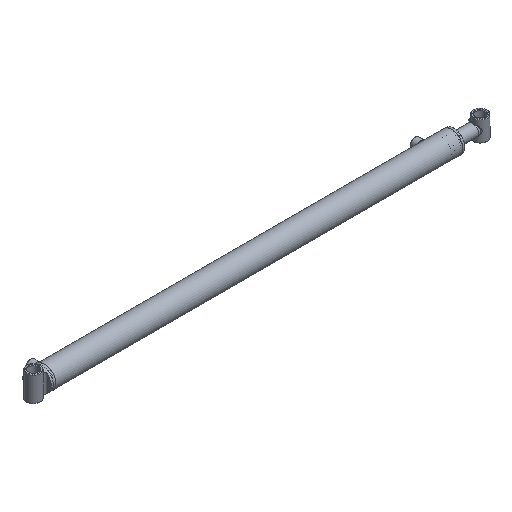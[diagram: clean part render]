
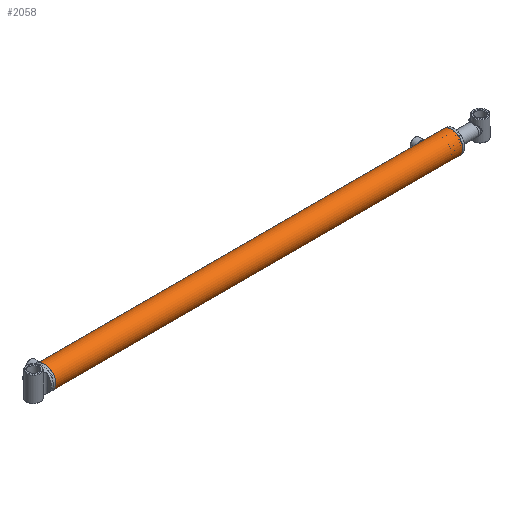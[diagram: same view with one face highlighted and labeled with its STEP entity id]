
A CAD part, isometric view. The second image highlights one B-rep face of the part: STEP entity #2058.
In plain terms, the highlighted cylindrical face has radius 30.163 mm (diameter 60.325 mm), a full revolution.
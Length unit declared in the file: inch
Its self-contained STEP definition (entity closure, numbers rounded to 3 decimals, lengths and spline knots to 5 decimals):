
#377=FACE_BOUND('',#700,.T.);
#378=FACE_BOUND('',#701,.T.);
#379=FACE_BOUND('',#702,.T.);
#500=FACE_OUTER_BOUND('',#699,.T.);
#699=EDGE_LOOP('',(#1636));
#700=EDGE_LOOP('',(#1637));
#701=EDGE_LOOP('',(#1638));
#702=EDGE_LOOP('',(#1639));
#908=CIRCLE('',#2250,1.1875);
#912=CIRCLE('',#2258,1.1875);
#1027=B_SPLINE_CURVE_WITH_KNOTS('',3,(#4747,#4748,#4749,#4750,#4751,#4752,
#4753,#4754,#4755,#4756,#4757,#4758,#4759,#4760,#4761,#4762,#4763,#4764,
#4765,#4766,#4767,#4768,#4769,#4770,#4771,#4772,#4773,#4774,#4775,#4776,
#4777,#4778,#4779,#4780),.UNSPECIFIED.,.T.,.F.,(4,2,2,2,2,2,2,2,2,2,2,2,
2,2,2,2,4),(0.,0.18872,0.37744,0.56616,0.75487,
0.94359,1.1323,1.32102,1.50975,1.69847,
1.88719,2.0759,2.26462,2.45333,2.64205,
2.83077,3.01949),.UNSPECIFIED.);
#1029=B_SPLINE_CURVE_WITH_KNOTS('',3,(#4940,#4941,#4942,#4943,#4944,#4945,
#4946,#4947,#4948,#4949,#4950,#4951,#4952,#4953,#4954,#4955,#4956,#4957,
#4958,#4959,#4960,#4961,#4962,#4963,#4964,#4965,#4966,#4967,#4968,#4969,
#4970,#4971,#4972,#4973),.UNSPECIFIED.,.T.,.F.,(4,2,2,2,2,2,2,2,2,2,2,2,
2,2,2,2,4),(0.,0.18872,0.37744,0.56616,0.75487,
0.94359,1.1323,1.32102,1.50975,1.69847,
1.88719,2.0759,2.26462,2.45333,2.64205,
2.83077,3.01949),.UNSPECIFIED.);
#1098=VERTEX_POINT('',#4746);
#1100=VERTEX_POINT('',#4939);
#1104=VERTEX_POINT('',#4983);
#1108=VERTEX_POINT('',#4995);
#1303=EDGE_CURVE('',#1098,#1098,#1027,.T.);
#1306=EDGE_CURVE('',#1100,#1100,#1029,.T.);
#1310=EDGE_CURVE('',#1104,#1104,#908,.T.);
#1314=EDGE_CURVE('',#1108,#1108,#912,.T.);
#1636=ORIENTED_EDGE('',*,*,#1314,.T.);
#1637=ORIENTED_EDGE('',*,*,#1303,.T.);
#1638=ORIENTED_EDGE('',*,*,#1306,.T.);
#1639=ORIENTED_EDGE('',*,*,#1310,.F.);
#1980=CYLINDRICAL_SURFACE('',#2260,1.1875);
#2058=ADVANCED_FACE('',(#500,#377,#378,#379),#1980,.T.);
#2250=AXIS2_PLACEMENT_3D('',#4984,#2627,#2628);
#2258=AXIS2_PLACEMENT_3D('',#4996,#2643,#2644);
#2260=AXIS2_PLACEMENT_3D('',#4998,#2647,#2648);
#2627=DIRECTION('center_axis',(1.,0.,0.));
#2628=DIRECTION('ref_axis',(0.,-1.,0.));
#2643=DIRECTION('center_axis',(1.,0.,0.));
#2644=DIRECTION('ref_axis',(0.,-1.,0.));
#2647=DIRECTION('center_axis',(1.,0.,0.));
#2648=DIRECTION('ref_axis',(0.,-1.,0.));
#4746=CARTESIAN_POINT('',(19.94094,1.17107,-0.19685));
#4747=CARTESIAN_POINT('Ctrl Pts',(19.94094,1.17107,-0.19685));
#4748=CARTESIAN_POINT('Ctrl Pts',(19.96571,1.17107,-0.19685));
#4749=CARTESIAN_POINT('Ctrl Pts',(19.9921,1.17194,-0.19189));
#4750=CARTESIAN_POINT('Ctrl Pts',(20.04058,1.17505,-0.17179));
#4751=CARTESIAN_POINT('Ctrl Pts',(20.06269,1.17725,-0.15665));
#4752=CARTESIAN_POINT('Ctrl Pts',(20.09759,1.18137,-0.12174));
#4753=CARTESIAN_POINT('Ctrl Pts',(20.11273,1.18356,-0.09964));
#4754=CARTESIAN_POINT('Ctrl Pts',(20.13284,1.18665,-0.05115));
#4755=CARTESIAN_POINT('Ctrl Pts',(20.1378,1.1875,-0.02477));
#4756=CARTESIAN_POINT('Ctrl Pts',(20.1378,1.1875,0.02477));
#4757=CARTESIAN_POINT('Ctrl Pts',(20.13284,1.18665,0.05115));
#4758=CARTESIAN_POINT('Ctrl Pts',(20.11273,1.18356,0.09964));
#4759=CARTESIAN_POINT('Ctrl Pts',(20.09759,1.18137,0.12174));
#4760=CARTESIAN_POINT('Ctrl Pts',(20.06269,1.17725,0.15665));
#4761=CARTESIAN_POINT('Ctrl Pts',(20.04058,1.17505,0.17179));
#4762=CARTESIAN_POINT('Ctrl Pts',(19.9921,1.17194,0.19189));
#4763=CARTESIAN_POINT('Ctrl Pts',(19.96571,1.17107,0.19685));
#4764=CARTESIAN_POINT('Ctrl Pts',(19.91618,1.17107,0.19685));
#4765=CARTESIAN_POINT('Ctrl Pts',(19.88979,1.17194,0.19189));
#4766=CARTESIAN_POINT('Ctrl Pts',(19.84131,1.17505,0.17179));
#4767=CARTESIAN_POINT('Ctrl Pts',(19.8192,1.17725,0.15665));
#4768=CARTESIAN_POINT('Ctrl Pts',(19.7843,1.18137,0.12174));
#4769=CARTESIAN_POINT('Ctrl Pts',(19.76916,1.18356,0.09964));
#4770=CARTESIAN_POINT('Ctrl Pts',(19.74905,1.18665,0.05115));
#4771=CARTESIAN_POINT('Ctrl Pts',(19.74409,1.1875,0.02477));
#4772=CARTESIAN_POINT('Ctrl Pts',(19.74409,1.1875,-0.02477));
#4773=CARTESIAN_POINT('Ctrl Pts',(19.74905,1.18665,-0.05115));
#4774=CARTESIAN_POINT('Ctrl Pts',(19.76916,1.18356,-0.09964));
#4775=CARTESIAN_POINT('Ctrl Pts',(19.7843,1.18137,-0.12174));
#4776=CARTESIAN_POINT('Ctrl Pts',(19.8192,1.17725,-0.15665));
#4777=CARTESIAN_POINT('Ctrl Pts',(19.84131,1.17505,-0.17179));
#4778=CARTESIAN_POINT('Ctrl Pts',(19.88979,1.17194,-0.19189));
#4779=CARTESIAN_POINT('Ctrl Pts',(19.91618,1.17107,-0.19685));
#4780=CARTESIAN_POINT('Ctrl Pts',(19.94094,1.17107,-0.19685));
#4939=CARTESIAN_POINT('',(-21.35827,1.17107,-0.19685));
#4940=CARTESIAN_POINT('Ctrl Pts',(-21.35827,1.17107,-0.19685));
#4941=CARTESIAN_POINT('Ctrl Pts',(-21.3335,1.17107,-0.19685));
#4942=CARTESIAN_POINT('Ctrl Pts',(-21.30712,1.17194,-0.19189));
#4943=CARTESIAN_POINT('Ctrl Pts',(-21.25863,1.17505,-0.17179));
#4944=CARTESIAN_POINT('Ctrl Pts',(-21.23653,1.17725,-0.15665));
#4945=CARTESIAN_POINT('Ctrl Pts',(-21.20162,1.18137,-0.12174));
#4946=CARTESIAN_POINT('Ctrl Pts',(-21.18648,1.18356,-0.09964));
#4947=CARTESIAN_POINT('Ctrl Pts',(-21.16638,1.18665,-0.05115));
#4948=CARTESIAN_POINT('Ctrl Pts',(-21.16142,1.1875,-0.02477));
#4949=CARTESIAN_POINT('Ctrl Pts',(-21.16142,1.1875,0.02477));
#4950=CARTESIAN_POINT('Ctrl Pts',(-21.16638,1.18665,0.05115));
#4951=CARTESIAN_POINT('Ctrl Pts',(-21.18648,1.18356,0.09964));
#4952=CARTESIAN_POINT('Ctrl Pts',(-21.20162,1.18137,0.12174));
#4953=CARTESIAN_POINT('Ctrl Pts',(-21.23653,1.17725,0.15665));
#4954=CARTESIAN_POINT('Ctrl Pts',(-21.25863,1.17505,0.17179));
#4955=CARTESIAN_POINT('Ctrl Pts',(-21.30712,1.17194,0.19189));
#4956=CARTESIAN_POINT('Ctrl Pts',(-21.3335,1.17107,0.19685));
#4957=CARTESIAN_POINT('Ctrl Pts',(-21.38303,1.17107,0.19685));
#4958=CARTESIAN_POINT('Ctrl Pts',(-21.40942,1.17194,0.19189));
#4959=CARTESIAN_POINT('Ctrl Pts',(-21.45791,1.17505,0.17179));
#4960=CARTESIAN_POINT('Ctrl Pts',(-21.48001,1.17725,0.15665));
#4961=CARTESIAN_POINT('Ctrl Pts',(-21.51491,1.18137,0.12174));
#4962=CARTESIAN_POINT('Ctrl Pts',(-21.53006,1.18356,0.09964));
#4963=CARTESIAN_POINT('Ctrl Pts',(-21.55016,1.18665,0.05115));
#4964=CARTESIAN_POINT('Ctrl Pts',(-21.55512,1.1875,0.02477));
#4965=CARTESIAN_POINT('Ctrl Pts',(-21.55512,1.1875,-0.02477));
#4966=CARTESIAN_POINT('Ctrl Pts',(-21.55016,1.18665,-0.05115));
#4967=CARTESIAN_POINT('Ctrl Pts',(-21.53006,1.18356,-0.09964));
#4968=CARTESIAN_POINT('Ctrl Pts',(-21.51491,1.18137,-0.12174));
#4969=CARTESIAN_POINT('Ctrl Pts',(-21.48001,1.17725,-0.15665));
#4970=CARTESIAN_POINT('Ctrl Pts',(-21.45791,1.17505,-0.17179));
#4971=CARTESIAN_POINT('Ctrl Pts',(-21.40942,1.17194,-0.19189));
#4972=CARTESIAN_POINT('Ctrl Pts',(-21.38303,1.17107,-0.19685));
#4973=CARTESIAN_POINT('Ctrl Pts',(-21.35827,1.17107,-0.19685));
#4983=CARTESIAN_POINT('',(21.94882,1.1875,0.));
#4984=CARTESIAN_POINT('Origin',(21.94882,0.,0.));
#4995=CARTESIAN_POINT('',(-21.78494,1.1875,0.));
#4996=CARTESIAN_POINT('Origin',(-21.78494,0.,0.));
#4998=CARTESIAN_POINT('Origin',(0.,0.,0.));
